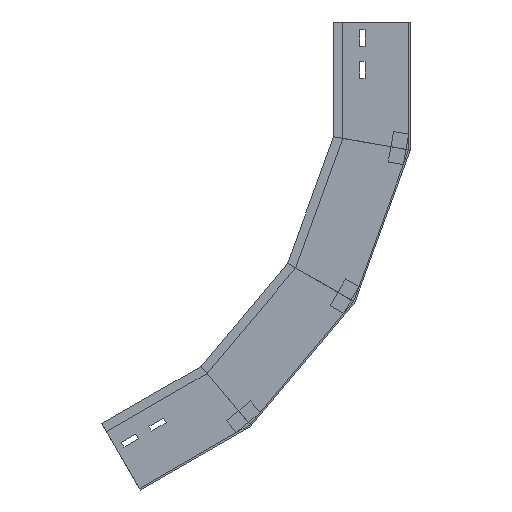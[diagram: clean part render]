
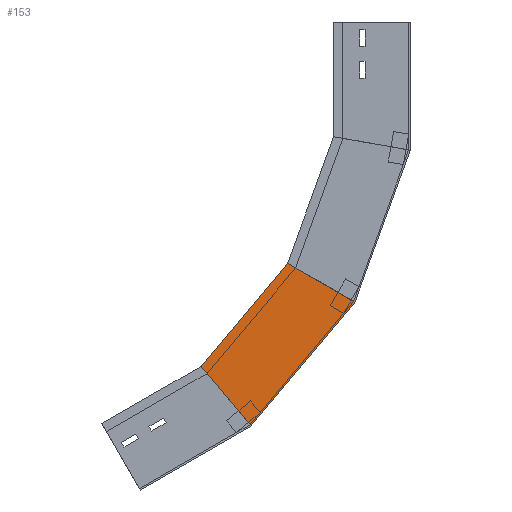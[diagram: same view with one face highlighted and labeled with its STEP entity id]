
A CAD part, left-side view. The second image highlights one B-rep face of the part: STEP entity #153.
In plain terms, the highlighted planar face has unit normal (-1, 0, 0) as drawn and (1, 0, 0) by its records, which use the part's own axes.
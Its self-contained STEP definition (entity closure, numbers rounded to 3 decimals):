
#41 = CARTESIAN_POINT ( 'NONE',  ( 0., 0., -167.4 ) ) ;
#112 = EDGE_CURVE ( 'NONE', #1238, #522, #1093, .T. ) ;
#134 = EDGE_LOOP ( 'NONE', ( #537, #1381, #822, #322 ) ) ;
#153 = ADVANCED_FACE ( 'NONE', ( #1074 ), #1475, .F. ) ;
#286 = CARTESIAN_POINT ( 'NONE',  ( 0., 100., -149.767 ) ) ;
#301 = DIRECTION ( 'NONE',  ( -1., 0., 0. ) ) ;
#314 = VECTOR ( 'NONE', #1323, 1000. ) ;
#322 = ORIENTED_EDGE ( 'NONE', *, *, #1296, .F. ) ;
#396 = CARTESIAN_POINT ( 'NONE',  ( 0., 0., -167.4 ) ) ;
#515 = CARTESIAN_POINT ( 'NONE',  ( 0., 160.139, -314.998 ) ) ;
#522 = VERTEX_POINT ( 'NONE', #1062 ) ;
#537 = ORIENTED_EDGE ( 'NONE', *, *, #1119, .F. ) ;
#685 = CARTESIAN_POINT ( 'NONE',  ( 0., 28.627, -162.352 ) ) ;
#720 = VECTOR ( 'NONE', #1094, 1000. ) ;
#749 = VECTOR ( 'NONE', #1683, 1000. ) ;
#755 = CARTESIAN_POINT ( 'NONE',  ( 0., 72.2, -365.769 ) ) ;
#775 = EDGE_CURVE ( 'NONE', #522, #1124, #1155, .T. ) ;
#822 = ORIENTED_EDGE ( 'NONE', *, *, #775, .T. ) ;
#863 = VERTEX_POINT ( 'NONE', #515 ) ;
#886 = CARTESIAN_POINT ( 'NONE',  ( 0., 93.969, -133.198 ) ) ;
#929 = LINE ( 'NONE', #886, #1077 ) ;
#1062 = CARTESIAN_POINT ( 'NONE',  ( 0., 0., -167.4 ) ) ;
#1074 = FACE_OUTER_BOUND ( 'NONE', #134, .T. ) ;
#1077 = VECTOR ( 'NONE', #1672, 1000. ) ;
#1093 = LINE ( 'NONE', #685, #314 ) ;
#1094 = DIRECTION ( 'NONE',  ( 0., -0.866, -0.5 ) ) ;
#1102 = LINE ( 'NONE', #1593, #720 ) ;
#1109 = AXIS2_PLACEMENT_3D ( 'NONE', #41, #301, #1622 ) ;
#1119 = EDGE_CURVE ( 'NONE', #1238, #863, #929, .T. ) ;
#1124 = VERTEX_POINT ( 'NONE', #755 ) ;
#1155 = LINE ( 'NONE', #396, #749 ) ;
#1238 = VERTEX_POINT ( 'NONE', #286 ) ;
#1296 = EDGE_CURVE ( 'NONE', #863, #1124, #1102, .T. ) ;
#1323 = DIRECTION ( 'NONE',  ( 0., -0.985, -0.174 ) ) ;
#1381 = ORIENTED_EDGE ( 'NONE', *, *, #112, .T. ) ;
#1475 = PLANE ( 'NONE',  #1109 ) ;
#1593 = CARTESIAN_POINT ( 'NONE',  ( 0., 103.946, -347.441 ) ) ;
#1622 = DIRECTION ( 'NONE',  ( 0., 0., 1. ) ) ;
#1672 = DIRECTION ( 'NONE',  ( 0., 0.342, -0.94 ) ) ;
#1683 = DIRECTION ( 'NONE',  ( 0., 0.342, -0.94 ) ) ;
